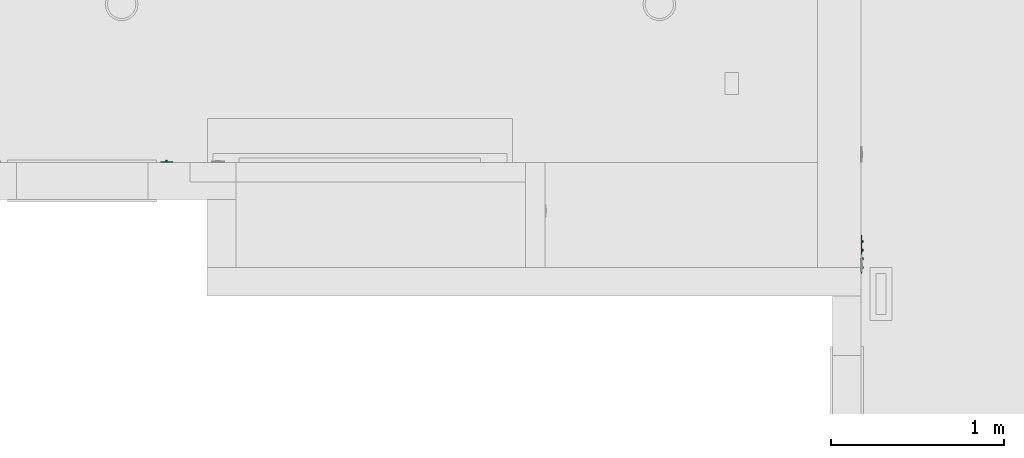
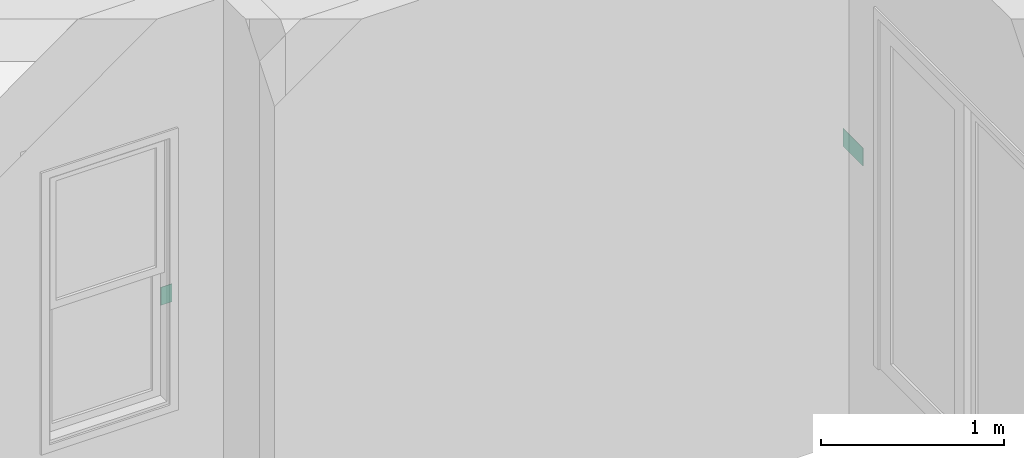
# One storey, part 39 of 103: 2 flow controllers.
"""IFC2X3 building model written with IfcOpenShell, lengths in inches."""

from ifc_helpers import new_model, entity, si_unit, converted_unit, derived_unit, money_unit, direction, frame, origin_with_axes, place, context, subcontext, project, spatial, faceted_brep, type_object, element, save


model = new_model("IFC2X3")

# Units and contexts
model_context = context("Model", 3, precision=0.00039370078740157, world=origin_with_axes(), true_north=direction((0.0, 1.0)))
plan_context = context("Plan", 3, precision=0.00039370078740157, world=origin_with_axes(), true_north=direction((0.0, 1.0)))
body_context = subcontext(model_context, "Body", "Model", "MODEL_VIEW")
ifc_project = project(units=[converted_unit("LENGTHUNIT", "INCH", entity("IfcPositiveLengthMeasure", 0.0254), si_unit("LENGTHUNIT", "METRE"), dimensions=[1, 0, 0, 0, 0, 0, 0]), converted_unit("AREAUNIT", "SQUARE_FOOT", entity("IfcPositiveLengthMeasure", 0.09290304), si_unit("AREAUNIT", "SQUARE_METRE"), dimensions=[2, 0, 0, 0, 0, 0, 0]), si_unit("PLANEANGLEUNIT", "RADIAN"), si_unit("SOLIDANGLEUNIT", "STERADIAN"), money_unit("USD"), converted_unit("TIMEUNIT", "Year", entity("IfcTimeMeasure", 31557600.0), si_unit("TIMEUNIT", "SECOND"), dimensions=[0, 0, 1, 0, 0, 0, 0]), si_unit("MASSUNIT", "GRAM", prefix="KILO"), si_unit("THERMODYNAMICTEMPERATUREUNIT", "DEGREE_CELSIUS"), si_unit("LUMINOUSINTENSITYUNIT", "LUMEN"), si_unit("ENERGYUNIT", "JOULE", prefix="MEGA"), derived_unit("SPECIFICHEATCAPACITYUNIT", [(si_unit("ENERGYUNIT", "JOULE"), 1), (si_unit("MASSUNIT", "GRAM", prefix="KILO"), -1), (si_unit("THERMODYNAMICTEMPERATUREUNIT", "KELVIN"), -1)])], contexts=[model_context, plan_context])

# Site, building, storey
site_placement = place(None, origin_with_axes())
site = spatial("IfcSite", under=ifc_project, at=site_placement, Name="Site", CompositionType="ELEMENT")
building_placement = place(site_placement, origin_with_axes())
building = spatial("IfcBuilding", under=site, at=building_placement, Name="Building", CompositionType="ELEMENT")
storey_placement = place(building_placement, frame((0.0, 0.0, 127.9999999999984), z_axis=(0.0, 0.0, 1.0), x_axis=(1.0, 0.0, 0.0)))
storey = spatial("IfcBuildingStorey", under=building, at=storey_placement, Name="Second Floor", CompositionType="ELEMENT", Elevation=128.0)

# Flow controllers
switching_device_type = type_object("IfcSwitchingDeviceType", Name="Switch US", PredefinedType="NOTDEFINED")
flow_controller_1_placement = place(storey_placement, frame((6.499979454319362, 113.5023002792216, 41.99999999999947), z_axis=(0.0, 0.0, 1.0), x_axis=(-1.346018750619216e-06, 0.9999999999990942, 0.0)))
element("IfcFlowController", 1, at=flow_controller_1_placement, inside=storey, type_object=switching_device_type, Name="OBJ-09", context=body_context, shape_type="Brep", body=[
    faceted_brep([(-3.14960629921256, 0.0, -0.5905511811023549), (-3.14960629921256, 0.0, 0.5905511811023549), (-2.755905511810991, 0.0, 0.5905511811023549), (-2.755905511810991, 0.0, -0.5905511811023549), (-3.14960629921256, -0.1033464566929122, -0.5905511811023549), (-3.14960629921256, -0.1033464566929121, 0.157480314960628), (-3.14960629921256, -0.4970472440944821, 0.1574803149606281), (-3.14960629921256, -0.4970472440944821, 0.472440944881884), (-3.14960629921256, -0.1033464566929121, 0.472440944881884), (-3.14960629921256, -0.103346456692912, 0.5905511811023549), (-2.755905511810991, -0.1033464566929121, 0.5905511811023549), (-2.755905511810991, -0.1033464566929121, 0.472440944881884), (-2.755905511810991, -0.4970472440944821, 0.472440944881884), (-2.755905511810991, -0.4970472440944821, 0.1574803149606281), (-2.755905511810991, -0.1033464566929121, 0.157480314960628), (-2.755905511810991, -0.1033464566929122, -0.5905511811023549)], [[[0, 1, 2, 3]], [[0, 4, 5, 6, 7, 8, 9, 1]], [[1, 9, 10, 2]], [[3, 2, 10, 11, 12, 13, 14, 15]], [[4, 0, 3, 15]], [[5, 4, 15, 14]], [[6, 5, 14, 13]], [[7, 6, 13, 12]], [[8, 7, 12, 11]], [[9, 8, 11, 10]]]),
    faceted_brep([(-3.228346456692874, 0.0, -0.669291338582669), (-2.677165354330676, 0.0, -0.669291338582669), (-2.677165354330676, -0.1771653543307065, -0.669291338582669), (-3.228346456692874, -0.1771653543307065, -0.669291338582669), (-3.228346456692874, 0.0, 0.669291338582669), (-2.677165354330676, 0.0, 0.669291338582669), (-3.14960629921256, 0.0, -0.5905511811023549), (-2.75590551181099, 0.0, -0.5905511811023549), (-2.75590551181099, 0.0, 0.5905511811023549), (-3.14960629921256, 0.0, 0.5905511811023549), (-2.677165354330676, -0.1771653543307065, 0.669291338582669), (-3.228346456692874, -0.1771653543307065, 0.669291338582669), (-3.14960629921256, -0.1771653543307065, -0.5905511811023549), (-3.14960629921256, -0.1771653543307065, 0.5905511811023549), (-2.75590551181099, -0.1771653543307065, 0.5905511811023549), (-2.75590551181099, -0.1771653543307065, -0.5905511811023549)], [[[0, 1, 2, 3]], [[0, 4, 5, 1], [6, 7, 8, 9]], [[1, 5, 10, 2]], [[3, 2, 10, 11], [12, 13, 14, 15]], [[4, 0, 3, 11]], [[5, 4, 11, 10]], [[7, 6, 12, 15]], [[8, 7, 15, 14]], [[9, 8, 14, 13]], [[6, 9, 13, 12]]]),
    faceted_brep([(-1.968503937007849, -0.103346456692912, 2.362204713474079), (-1.968503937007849, 0.0, 2.36220472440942), (-4.330708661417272, 0.0, 2.36220472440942), (-4.330708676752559, -0.103346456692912, 2.362204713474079), (-1.968503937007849, 0.0, -2.36220472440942), (-1.968503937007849, -0.1122624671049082, 2.361030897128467), (-1.968503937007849, -0.1277054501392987, 2.352114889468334), (-1.968503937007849, -0.1366214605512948, 2.336671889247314), (-1.968503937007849, -0.1377952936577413, 2.32775574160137), (-1.968503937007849, -0.1377952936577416, -2.327755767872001), (-1.968503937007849, -0.1366214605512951, -2.336671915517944), (-1.968503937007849, -0.1277054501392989, -2.352114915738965), (-1.968503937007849, -0.1122624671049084, -2.361030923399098), (-1.968503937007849, -0.1033464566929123, -2.36220473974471), (-4.330708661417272, 0.0, -2.36220472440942), (-2.677165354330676, 0.0, -0.669291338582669), (-2.677165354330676, 0.0, 0.669291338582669), (-3.228346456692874, 0.0, 0.669291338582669), (-3.228346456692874, 0.0, -0.669291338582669), (-4.330708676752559, -0.1033464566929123, -2.36220473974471), (-4.329534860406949, -0.1122624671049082, 2.361030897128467), (-4.320618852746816, -0.1277054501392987, 2.352114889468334), (-4.305175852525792, -0.1366214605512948, 2.336671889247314), (-4.296259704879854, -0.1377952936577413, 2.32775574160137), (-4.296259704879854, -0.1377952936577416, -2.327755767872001), (-3.228346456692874, -0.1377952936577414, 0.669291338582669), (-2.677165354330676, -0.1377952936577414, 0.669291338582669), (-2.677165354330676, -0.1377952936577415, -0.669291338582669), (-3.228346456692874, -0.1377952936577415, -0.669291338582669), (-4.305175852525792, -0.1366214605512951, -2.336671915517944), (-4.320618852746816, -0.1277054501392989, -2.352114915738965), (-4.329534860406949, -0.1122624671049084, -2.361030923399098)], [[[0, 1, 2, 3]], [[4, 1, 0, 5, 6, 7, 8, 9, 10, 11, 12, 13]], [[1, 4, 14, 2], [15, 16, 17, 18]], [[19, 3, 2, 14]], [[5, 0, 3, 20]], [[6, 5, 20, 21]], [[7, 6, 21, 22]], [[8, 7, 22, 23]], [[9, 8, 23, 24], [25, 26, 27, 28]], [[10, 9, 24, 29]], [[11, 10, 29, 30]], [[12, 11, 30, 31]], [[13, 12, 31, 19]], [[4, 13, 19, 14]], [[15, 27, 26, 16]], [[16, 26, 25, 17]], [[17, 25, 28, 18]], [[18, 28, 27, 15]], [[31, 20, 3, 19]], [[30, 21, 20, 31]], [[29, 22, 21, 30]], [[24, 23, 22, 29]]]),
    faceted_brep([(-1.18110236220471, 0.0, -0.5905511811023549), (-1.18110236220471, 0.0, 0.5905511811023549), (-0.7874015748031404, 0.0, 0.5905511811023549), (-0.7874015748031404, 0.0, -0.5905511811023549), (-1.18110236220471, -0.1033464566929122, -0.5905511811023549), (-1.18110236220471, -0.1033464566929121, 0.157480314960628), (-1.18110236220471, -0.4970472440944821, 0.1574803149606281), (-1.18110236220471, -0.4970472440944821, 0.472440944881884), (-1.18110236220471, -0.1033464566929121, 0.472440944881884), (-1.18110236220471, -0.103346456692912, 0.5905511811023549), (-0.7874015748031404, -0.1033464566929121, 0.5905511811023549), (-0.7874015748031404, -0.1033464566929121, 0.472440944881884), (-0.7874015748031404, -0.4970472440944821, 0.472440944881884), (-0.7874015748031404, -0.4970472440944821, 0.1574803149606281), (-0.7874015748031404, -0.1033464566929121, 0.157480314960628), (-0.7874015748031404, -0.1033464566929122, -0.5905511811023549)], [[[0, 1, 2, 3]], [[0, 4, 5, 6, 7, 8, 9, 1]], [[1, 9, 10, 2]], [[3, 2, 10, 11, 12, 13, 14, 15]], [[4, 0, 3, 15]], [[5, 4, 15, 14]], [[6, 5, 14, 13]], [[7, 6, 13, 12]], [[8, 7, 12, 11]], [[9, 8, 11, 10]]]),
    faceted_brep([(-1.259842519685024, 0.0, -0.669291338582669), (-0.7086614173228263, 0.0, -0.669291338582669), (-0.7086614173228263, -0.1771653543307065, -0.669291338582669), (-1.259842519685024, -0.1771653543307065, -0.669291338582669), (-1.259842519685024, 0.0, 0.669291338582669), (-0.7086614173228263, 0.0, 0.669291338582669), (-1.18110236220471, 0.0, -0.5905511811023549), (-0.7874015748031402, 0.0, -0.5905511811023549), (-0.7874015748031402, 0.0, 0.5905511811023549), (-1.18110236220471, 0.0, 0.5905511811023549), (-0.7086614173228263, -0.1771653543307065, 0.669291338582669), (-1.259842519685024, -0.1771653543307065, 0.669291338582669), (-1.18110236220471, -0.1771653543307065, -0.5905511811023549), (-1.18110236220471, -0.1771653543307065, 0.5905511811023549), (-0.7874015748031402, -0.1771653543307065, 0.5905511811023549), (-0.7874015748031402, -0.1771653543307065, -0.5905511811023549)], [[[0, 1, 2, 3]], [[0, 4, 5, 1], [6, 7, 8, 9]], [[1, 5, 10, 2]], [[3, 2, 10, 11], [12, 13, 14, 15]], [[4, 0, 3, 11]], [[5, 4, 11, 10]], [[7, 6, 12, 15]], [[8, 7, 15, 14]], [[9, 8, 14, 13]], [[6, 9, 13, 12]]]),
    faceted_brep([(-1.968503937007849, 0.0, -2.36220472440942), (-1.968503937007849, 0.0, 2.36220472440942), (0.0, 0.0, 2.36220472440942), (0.0, 0.0, -2.36220472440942), (-0.7086614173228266, 0.0, 0.669291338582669), (-1.259842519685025, 0.0, 0.669291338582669), (-1.259842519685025, 0.0, -0.669291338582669), (-0.7086614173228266, 0.0, -0.669291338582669), (-1.968503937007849, -0.103346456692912, 2.362204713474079), (-1.968503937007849, -0.1033464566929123, -2.36220473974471), (-1.968503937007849, -0.1122624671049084, -2.361030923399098), (-1.968503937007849, -0.1277054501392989, -2.352114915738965), (-1.968503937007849, -0.1366214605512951, -2.336671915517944), (-1.968503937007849, -0.1377952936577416, -2.327755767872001), (-1.968503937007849, -0.1377952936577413, 2.32775574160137), (-1.968503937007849, -0.1366214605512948, 2.336671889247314), (-1.968503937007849, -0.1277054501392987, 2.352114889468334), (-1.968503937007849, -0.1122624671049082, 2.361030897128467), (0.0, -0.103346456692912, 2.362204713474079), (0.0, -0.1277054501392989, -2.352114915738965), (0.0, -0.1122624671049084, -2.361030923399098), (0.0, -0.1033464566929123, -2.36220473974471), (0.0, -0.1122624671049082, 2.361030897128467), (0.0, -0.1277054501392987, 2.352114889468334), (0.0, -0.1366214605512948, 2.336671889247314), (0.0, -0.1377952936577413, 2.32775574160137), (0.0, -0.1377952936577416, -2.327755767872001), (0.0, -0.1366214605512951, -2.336671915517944), (-0.7086614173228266, -0.1377952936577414, 0.669291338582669), (-1.259842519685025, -0.1377952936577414, 0.669291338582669), (-1.259842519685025, -0.1377952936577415, -0.669291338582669), (-0.7086614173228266, -0.1377952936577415, -0.669291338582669)], [[[0, 1, 2, 3], [4, 5, 6, 7]], [[8, 1, 0, 9, 10, 11, 12, 13, 14, 15, 16, 17]], [[1, 8, 18, 2]], [[19, 20, 21, 3, 2, 18, 22, 23, 24, 25, 26, 27]], [[9, 0, 3, 21]], [[28, 29, 5, 4]], [[29, 30, 6, 5]], [[30, 31, 7, 6]], [[31, 28, 4, 7]], [[10, 9, 21, 20]], [[11, 10, 20, 19]], [[12, 11, 19, 27]], [[13, 12, 27, 26]], [[14, 13, 26, 25], [28, 31, 30, 29]], [[15, 14, 25, 24]], [[16, 15, 24, 23]], [[17, 16, 23, 22]], [[8, 17, 22, 18]]]),
    faceted_brep([(0.7874015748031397, 0.0, -0.5905511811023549), (0.7874015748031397, 0.0, 0.5905511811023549), (1.18110236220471, 0.0, 0.5905511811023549), (1.18110236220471, 0.0, -0.5905511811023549), (0.7874015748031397, -0.1033464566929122, -0.5905511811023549), (0.7874015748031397, -0.1033464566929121, 0.157480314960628), (0.7874015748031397, -0.4970472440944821, 0.1574803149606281), (0.7874015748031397, -0.4970472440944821, 0.472440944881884), (0.7874015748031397, -0.1033464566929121, 0.472440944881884), (0.7874015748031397, -0.103346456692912, 0.5905511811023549), (1.18110236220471, -0.1033464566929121, 0.5905511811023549), (1.18110236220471, -0.1033464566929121, 0.472440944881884), (1.18110236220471, -0.4970472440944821, 0.472440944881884), (1.18110236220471, -0.4970472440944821, 0.1574803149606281), (1.18110236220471, -0.1033464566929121, 0.157480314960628), (1.18110236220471, -0.1033464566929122, -0.5905511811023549)], [[[0, 1, 2, 3]], [[0, 4, 5, 6, 7, 8, 9, 1]], [[1, 9, 10, 2]], [[3, 2, 10, 11, 12, 13, 14, 15]], [[4, 0, 3, 15]], [[5, 4, 15, 14]], [[6, 5, 14, 13]], [[7, 6, 13, 12]], [[8, 7, 12, 11]], [[9, 8, 11, 10]]]),
    faceted_brep([(0.7086614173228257, 0.0, -0.669291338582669), (1.259842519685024, 0.0, -0.669291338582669), (1.259842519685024, -0.1771653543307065, -0.669291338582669), (0.7086614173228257, -0.1771653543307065, -0.669291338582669), (0.7086614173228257, 0.0, 0.669291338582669), (1.259842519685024, 0.0, 0.669291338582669), (0.7874015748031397, 0.0, -0.5905511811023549), (1.18110236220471, 0.0, -0.5905511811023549), (1.18110236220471, 0.0, 0.5905511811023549), (0.7874015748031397, 0.0, 0.5905511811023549), (1.259842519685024, -0.1771653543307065, 0.669291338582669), (0.7086614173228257, -0.1771653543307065, 0.669291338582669), (0.7874015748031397, -0.1771653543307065, -0.5905511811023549), (0.7874015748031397, -0.1771653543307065, 0.5905511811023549), (1.18110236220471, -0.1771653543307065, 0.5905511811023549), (1.18110236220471, -0.1771653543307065, -0.5905511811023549)], [[[0, 1, 2, 3]], [[0, 4, 5, 1], [6, 7, 8, 9]], [[1, 5, 10, 2]], [[3, 2, 10, 11], [12, 13, 14, 15]], [[4, 0, 3, 11]], [[5, 4, 11, 10]], [[7, 6, 12, 15]], [[8, 7, 15, 14]], [[9, 8, 14, 13]], [[6, 9, 13, 12]]]),
    faceted_brep([(0.0, 0.0, -2.36220472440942), (0.0, 0.0, 2.36220472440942), (1.968503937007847, 0.0, 2.36220472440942), (1.968503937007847, 0.0, -2.36220472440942), (1.259842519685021, 0.0, 0.669291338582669), (0.7086614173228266, 0.0, 0.669291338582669), (0.7086614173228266, 0.0, -0.669291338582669), (1.259842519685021, 0.0, -0.669291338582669), (0.0, -0.103346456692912, 2.362204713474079), (0.0, -0.1033464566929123, -2.36220473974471), (0.0, -0.1122624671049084, -2.361030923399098), (0.0, -0.1277054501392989, -2.352114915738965), (0.0, -0.1366214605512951, -2.336671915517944), (0.0, -0.1377952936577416, -2.327755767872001), (0.0, -0.1377952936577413, 2.32775574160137), (0.0, -0.1366214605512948, 2.336671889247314), (0.0, -0.1277054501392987, 2.352114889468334), (0.0, -0.1122624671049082, 2.361030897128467), (1.968503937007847, -0.103346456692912, 2.362204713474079), (1.968503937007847, -0.1277054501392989, -2.352114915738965), (1.968503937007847, -0.1122624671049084, -2.361030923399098), (1.968503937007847, -0.1033464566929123, -2.36220473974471), (1.968503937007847, -0.1122624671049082, 2.361030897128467), (1.968503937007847, -0.1277054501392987, 2.352114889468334), (1.968503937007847, -0.1366214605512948, 2.336671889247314), (1.968503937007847, -0.1377952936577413, 2.32775574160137), (1.968503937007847, -0.1377952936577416, -2.327755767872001), (1.968503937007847, -0.1366214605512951, -2.336671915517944), (1.259842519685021, -0.1377952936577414, 0.669291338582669), (0.7086614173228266, -0.1377952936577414, 0.669291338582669), (0.7086614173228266, -0.1377952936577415, -0.669291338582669), (1.259842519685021, -0.1377952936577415, -0.669291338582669)], [[[0, 1, 2, 3], [4, 5, 6, 7]], [[8, 1, 0, 9, 10, 11, 12, 13, 14, 15, 16, 17]], [[1, 8, 18, 2]], [[19, 20, 21, 3, 2, 18, 22, 23, 24, 25, 26, 27]], [[9, 0, 3, 21]], [[28, 29, 5, 4]], [[29, 30, 6, 5]], [[30, 31, 7, 6]], [[31, 28, 4, 7]], [[10, 9, 21, 20]], [[11, 10, 20, 19]], [[12, 11, 19, 27]], [[13, 12, 27, 26]], [[14, 13, 26, 25], [28, 31, 30, 29]], [[15, 14, 25, 24]], [[16, 15, 24, 23]], [[17, 16, 23, 22]], [[8, 17, 22, 18]]]),
    faceted_brep([(2.755905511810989, 0.0, -0.5905511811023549), (2.755905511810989, 0.0, 0.5905511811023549), (3.14960629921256, 0.0, 0.5905511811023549), (3.14960629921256, 0.0, -0.5905511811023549), (2.755905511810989, -0.1033464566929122, -0.5905511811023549), (2.755905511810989, -0.1033464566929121, 0.157480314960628), (2.755905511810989, -0.4970472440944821, 0.1574803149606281), (2.755905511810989, -0.4970472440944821, 0.472440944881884), (2.755905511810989, -0.1033464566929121, 0.472440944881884), (2.755905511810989, -0.103346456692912, 0.5905511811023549), (3.14960629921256, -0.1033464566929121, 0.5905511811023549), (3.14960629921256, -0.1033464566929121, 0.472440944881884), (3.14960629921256, -0.4970472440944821, 0.472440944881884), (3.14960629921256, -0.4970472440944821, 0.1574803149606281), (3.14960629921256, -0.1033464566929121, 0.157480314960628), (3.14960629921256, -0.1033464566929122, -0.5905511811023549)], [[[0, 1, 2, 3]], [[0, 4, 5, 6, 7, 8, 9, 1]], [[1, 9, 10, 2]], [[3, 2, 10, 11, 12, 13, 14, 15]], [[4, 0, 3, 15]], [[5, 4, 15, 14]], [[6, 5, 14, 13]], [[7, 6, 13, 12]], [[8, 7, 12, 11]], [[9, 8, 11, 10]]]),
    faceted_brep([(2.677165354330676, 0.0, -0.669291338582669), (3.228346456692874, 0.0, -0.669291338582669), (3.228346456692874, -0.1771653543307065, -0.669291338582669), (2.677165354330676, -0.1771653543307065, -0.669291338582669), (2.677165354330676, 0.0, 0.669291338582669), (3.228346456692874, 0.0, 0.669291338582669), (2.75590551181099, 0.0, -0.5905511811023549), (3.14960629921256, 0.0, -0.5905511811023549), (3.14960629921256, 0.0, 0.5905511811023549), (2.75590551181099, 0.0, 0.5905511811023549), (3.228346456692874, -0.1771653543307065, 0.669291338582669), (2.677165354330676, -0.1771653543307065, 0.669291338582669), (2.75590551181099, -0.1771653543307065, -0.5905511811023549), (2.75590551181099, -0.1771653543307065, 0.5905511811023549), (3.14960629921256, -0.1771653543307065, 0.5905511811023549), (3.14960629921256, -0.1771653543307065, -0.5905511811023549)], [[[0, 1, 2, 3]], [[0, 4, 5, 1], [6, 7, 8, 9]], [[1, 5, 10, 2]], [[3, 2, 10, 11], [12, 13, 14, 15]], [[4, 0, 3, 11]], [[5, 4, 11, 10]], [[7, 6, 12, 15]], [[8, 7, 15, 14]], [[9, 8, 14, 13]], [[6, 9, 13, 12]]]),
    faceted_brep([(1.968503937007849, 0.0, -2.36220472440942), (1.968503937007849, 0.0, 2.36220472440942), (4.330708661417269, 0.0, 2.36220472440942), (4.330708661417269, 0.0, -2.36220472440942), (3.228346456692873, 0.0, -0.669291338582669), (3.228346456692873, 0.0, 0.669291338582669), (2.677165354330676, 0.0, 0.669291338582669), (2.677165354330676, 0.0, -0.669291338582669), (1.968503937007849, -0.103346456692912, 2.362204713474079), (1.968503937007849, -0.1033464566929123, -2.36220473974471), (1.968503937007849, -0.1122624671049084, -2.361030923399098), (1.968503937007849, -0.1277054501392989, -2.352114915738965), (1.968503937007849, -0.1366214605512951, -2.336671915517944), (1.968503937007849, -0.1377952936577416, -2.327755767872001), (1.968503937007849, -0.1377952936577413, 2.32775574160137), (1.968503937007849, -0.1366214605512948, 2.336671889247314), (1.968503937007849, -0.1277054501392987, 2.352114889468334), (1.968503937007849, -0.1122624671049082, 2.361030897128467), (4.330708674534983, -0.103346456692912, 2.362204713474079), (4.330708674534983, -0.1033464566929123, -2.36220473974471), (3.228346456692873, -0.1377952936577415, -0.669291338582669), (3.228346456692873, -0.1377952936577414, 0.669291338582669), (2.677165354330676, -0.1377952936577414, 0.669291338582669), (2.677165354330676, -0.1377952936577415, -0.669291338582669), (4.329534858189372, -0.1122624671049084, -2.361030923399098), (4.32061885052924, -0.1277054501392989, -2.352114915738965), (4.30517585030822, -0.1366214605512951, -2.336671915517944), (4.296259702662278, -0.1377952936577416, -2.327755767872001), (4.296259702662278, -0.1377952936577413, 2.32775574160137), (4.30517585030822, -0.1366214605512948, 2.336671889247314), (4.32061885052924, -0.1277054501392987, 2.352114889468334), (4.329534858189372, -0.1122624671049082, 2.361030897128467)], [[[0, 1, 2, 3], [4, 5, 6, 7]], [[8, 1, 0, 9, 10, 11, 12, 13, 14, 15, 16, 17]], [[1, 8, 18, 2]], [[18, 19, 3, 2]], [[9, 0, 3, 19]], [[4, 20, 21, 5]], [[5, 21, 22, 6]], [[6, 22, 23, 7]], [[7, 23, 20, 4]], [[10, 9, 19, 24]], [[11, 10, 24, 25]], [[12, 11, 25, 26]], [[13, 12, 26, 27]], [[14, 13, 27, 28], [22, 21, 20, 23]], [[15, 14, 28, 29]], [[16, 15, 29, 30]], [[17, 16, 30, 31]], [[8, 17, 31, 18]], [[31, 24, 19, 18]], [[30, 25, 24, 31]], [[29, 26, 25, 30]], [[28, 27, 26, 29]]]),
])
flow_controller_2_placement = place(storey_placement, frame((-151.7500000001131, 134.5000933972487, 45.99999999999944), z_axis=(0.0, 0.0, 1.0), x_axis=(-0.9999999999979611, -2.019381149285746e-06, 0.0)))
element("IfcFlowController", 2, at=flow_controller_2_placement, inside=storey, type_object=switching_device_type, Name="OBJ-09", context=body_context, shape_type="Brep", body=[
    faceted_brep([(-0.196850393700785, 0.0, -0.5905511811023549), (-0.196850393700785, 0.0, 0.5905511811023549), (0.196850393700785, 0.0, 0.5905511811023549), (0.196850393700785, 0.0, -0.5905511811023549), (-0.196850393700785, -0.1033464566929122, -0.5905511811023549), (-0.196850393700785, -0.1033464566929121, 0.157480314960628), (-0.196850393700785, -0.4970472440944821, 0.1574803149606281), (-0.196850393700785, -0.4970472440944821, 0.472440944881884), (-0.196850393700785, -0.1033464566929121, 0.472440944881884), (-0.196850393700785, -0.103346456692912, 0.5905511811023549), (0.196850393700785, -0.1033464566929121, 0.5905511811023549), (0.196850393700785, -0.1033464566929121, 0.472440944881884), (0.196850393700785, -0.4970472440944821, 0.472440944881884), (0.196850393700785, -0.4970472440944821, 0.1574803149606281), (0.196850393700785, -0.1033464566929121, 0.157480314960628), (0.196850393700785, -0.1033464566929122, -0.5905511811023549)], [[[0, 1, 2, 3]], [[0, 4, 5, 6, 7, 8, 9, 1]], [[1, 9, 10, 2]], [[3, 2, 10, 11, 12, 13, 14, 15]], [[4, 0, 3, 15]], [[5, 4, 15, 14]], [[6, 5, 14, 13]], [[7, 6, 13, 12]], [[8, 7, 12, 11]], [[9, 8, 11, 10]]]),
    faceted_brep([(-0.275590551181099, 0.0, -0.669291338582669), (0.275590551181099, 0.0, -0.669291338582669), (0.275590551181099, -0.1771653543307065, -0.669291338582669), (-0.275590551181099, -0.1771653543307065, -0.669291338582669), (-0.275590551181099, 0.0, 0.669291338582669), (0.275590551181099, 0.0, 0.669291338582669), (-0.196850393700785, 0.0, -0.5905511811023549), (0.196850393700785, 0.0, -0.5905511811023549), (0.196850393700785, 0.0, 0.5905511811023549), (-0.196850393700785, 0.0, 0.5905511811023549), (0.275590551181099, -0.1771653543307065, 0.669291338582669), (-0.275590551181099, -0.1771653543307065, 0.669291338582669), (-0.196850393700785, -0.1771653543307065, -0.5905511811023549), (-0.196850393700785, -0.1771653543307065, 0.5905511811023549), (0.196850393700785, -0.1771653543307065, 0.5905511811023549), (0.196850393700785, -0.1771653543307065, -0.5905511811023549)], [[[0, 1, 2, 3]], [[0, 4, 5, 1], [6, 7, 8, 9]], [[1, 5, 10, 2]], [[3, 2, 10, 11], [12, 13, 14, 15]], [[4, 0, 3, 11]], [[5, 4, 11, 10]], [[7, 6, 12, 15]], [[8, 7, 15, 14]], [[9, 8, 14, 13]], [[6, 9, 13, 12]]]),
    faceted_brep([(-1.343503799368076, -0.1377952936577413, 2.32775574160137), (-1.343503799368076, -0.1377952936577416, -2.327755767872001), (1.343503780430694, -0.1377952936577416, -2.327755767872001), (1.343503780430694, -0.1377952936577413, 2.32775574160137), (-0.275590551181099, -0.1377952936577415, -0.669291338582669), (-0.275590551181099, -0.1377952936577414, 0.669291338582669), (0.275590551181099, -0.1377952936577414, 0.669291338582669), (0.275590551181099, -0.1377952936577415, -0.669291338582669), (-1.352419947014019, -0.1366214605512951, -2.336671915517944), (-1.352419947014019, -0.1366214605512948, 2.336671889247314), (1.352419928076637, -0.1366214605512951, -2.336671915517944), (1.352419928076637, -0.1366214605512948, 2.336671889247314), (-0.275590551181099, 0.0, -0.669291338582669), (-0.275590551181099, 0.0, 0.669291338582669), (0.275590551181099, 0.0, 0.669291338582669), (0.275590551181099, 0.0, -0.669291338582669), (-1.36786294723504, -0.1277054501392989, -2.352114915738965), (-1.36786294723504, -0.1277054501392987, 2.352114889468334), (1.367862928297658, -0.1277054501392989, -2.352114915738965), (1.367862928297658, -0.1277054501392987, 2.352114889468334), (-1.377952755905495, 0.0, 2.36220472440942), (1.377952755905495, 0.0, 2.36220472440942), (1.377952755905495, 0.0, -2.36220472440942), (-1.377952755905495, 0.0, -2.36220472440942), (-1.376778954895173, -0.1122624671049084, -2.361030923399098), (-1.376778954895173, -0.1122624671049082, 2.361030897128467), (1.376778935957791, -0.1122624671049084, -2.361030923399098), (1.376778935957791, -0.1122624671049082, 2.361030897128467), (-1.377952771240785, -0.103346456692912, 2.362204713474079), (1.377952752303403, -0.103346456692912, 2.362204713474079), (1.377952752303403, -0.1033464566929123, -2.36220473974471), (-1.377952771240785, -0.1033464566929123, -2.36220473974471)], [[[0, 1, 2, 3], [4, 5, 6, 7]], [[8, 1, 0, 9]], [[10, 2, 1, 8]], [[11, 3, 2, 10]], [[9, 0, 3, 11]], [[12, 13, 5, 4]], [[13, 14, 6, 5]], [[14, 15, 7, 6]], [[15, 12, 4, 7]], [[16, 8, 9, 17]], [[18, 10, 8, 16]], [[19, 11, 10, 18]], [[17, 9, 11, 19]], [[20, 21, 22, 23], [12, 15, 14, 13]], [[24, 16, 17, 25]], [[26, 18, 16, 24]], [[27, 19, 18, 26]], [[25, 17, 19, 27]], [[20, 28, 29, 21]], [[21, 29, 30, 22]], [[22, 30, 31, 23]], [[23, 31, 28, 20]], [[31, 24, 25, 28]], [[30, 26, 24, 31]], [[29, 27, 26, 30]], [[28, 25, 27, 29]]]),
])

save(model, "model.ifc")
